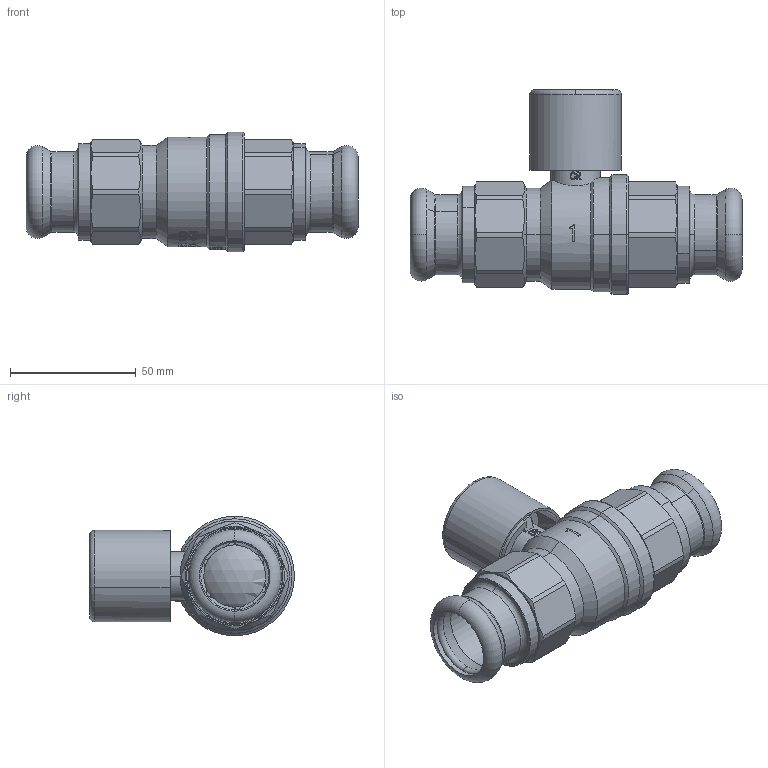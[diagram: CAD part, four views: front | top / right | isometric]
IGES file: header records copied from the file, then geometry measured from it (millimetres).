
Global section: file name: No Iges File Name specified; native system: AutoDesk Inventor R12.0; preprocessor: AutoDesk Inventor Iges Exporter R12.0; date: 20111207.115119; units: millimetre
Bounding box: 132 x 81.45 x 47.5 mm (x, y, z)
Volume: 64404.1 mm3; surface area: 64857.9 mm2
Topology: 1 solids, 9 shells, 720 faces, 2156 edges, 1493 vertices
Faces by surface type: plane 252, revolution 125, bspline 123, cylinder 92, cone 91, torus 32, sphere 5
